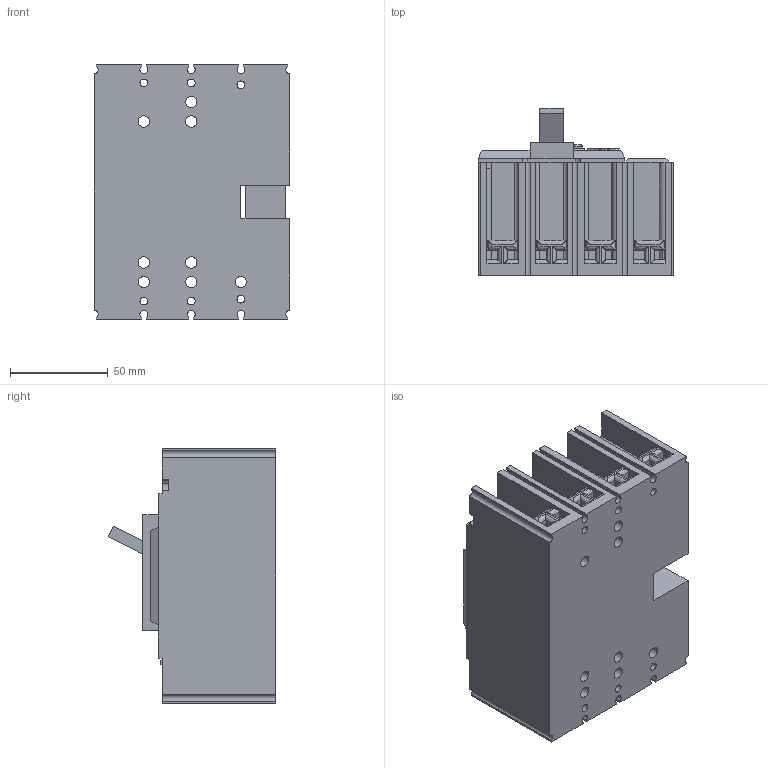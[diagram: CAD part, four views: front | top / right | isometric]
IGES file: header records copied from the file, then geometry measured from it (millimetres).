
Start section:  PTC IGES file: 6-metasol-elcb-100af-4p.igs
Global section: file name: 6-metasol-elcb-100af-4p.igs; native system: Pro/ENGINEER by Parametric Technology Corporation; preprocessor: 2010280; author: mgkimb; organization: Unknown; date: 20131029.142812; units: millimetre
Bounding box: 100 x 85.7 x 130 mm (x, y, z)
Surface area: 94693.9 mm2 (no closed solid volume)
Topology: 0 solids, 0 shells, 769 faces, 4400 edges, 4400 vertices
Faces by surface type: bspline 516, revolution 253
